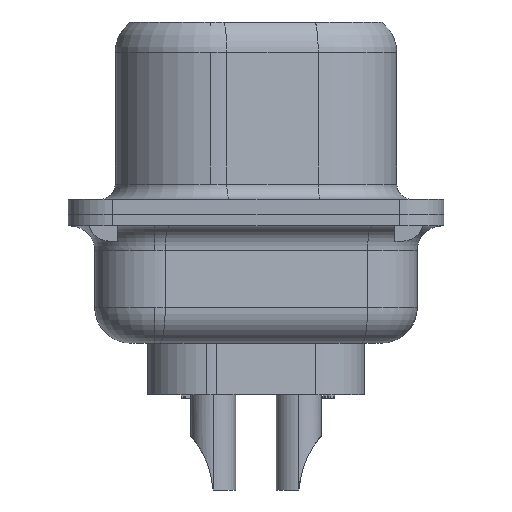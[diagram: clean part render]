
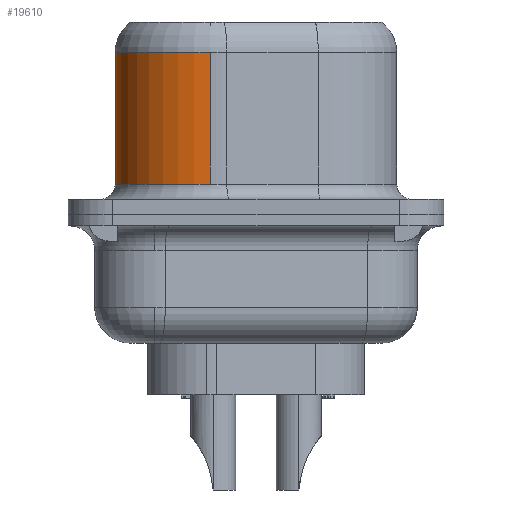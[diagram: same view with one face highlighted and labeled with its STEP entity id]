
A CAD part, left-side view. The second image highlights one B-rep face of the part: STEP entity #19610.
In plain terms, the highlighted cylindrical face has radius 3.175 mm (diameter 6.35 mm), a partial arc.
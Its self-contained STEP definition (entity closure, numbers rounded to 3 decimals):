
#400 = DIRECTION ( 'NONE',  ( 1., 0., 0. ) ) ;
#1671 = ORIENTED_EDGE ( 'NONE', *, *, #19513, .F. ) ;
#2184 = EDGE_CURVE ( 'NONE', #28427, #7963, #9942, .T. ) ;
#3332 = CARTESIAN_POINT ( 'NONE',  ( -5.777, 1.524, 5.461 ) ) ;
#3831 = VECTOR ( 'NONE', #24520, 1000. ) ;
#3884 = CARTESIAN_POINT ( 'NONE',  ( -8.952, 1.524, 6.477 ) ) ;
#4002 = CARTESIAN_POINT ( 'NONE',  ( -5.777, 4.699, 6.477 ) ) ;
#4942 = DIRECTION ( 'NONE',  ( 0., 0., 1. ) ) ;
#6292 = LINE ( 'NONE', #4002, #7077 ) ;
#7077 = VECTOR ( 'NONE', #26764, 1000. ) ;
#7963 = VERTEX_POINT ( 'NONE', #27093 ) ;
#8525 = ORIENTED_EDGE ( 'NONE', *, *, #22905, .T. ) ;
#8738 = ORIENTED_EDGE ( 'NONE', *, *, #29622, .T. ) ;
#9348 = FACE_OUTER_BOUND ( 'NONE', #12786, .T. ) ;
#9942 = CIRCLE ( 'NONE', #29810, 3.175 ) ;
#10731 = LINE ( 'NONE', #3884, #3831 ) ;
#11166 = CYLINDRICAL_SURFACE ( 'NONE', #26607, 3.175 ) ;
#12556 = ORIENTED_EDGE ( 'NONE', *, *, #2184, .F. ) ;
#12786 = EDGE_LOOP ( 'NONE', ( #1671, #12556, #8738, #8525 ) ) ;
#13358 = CARTESIAN_POINT ( 'NONE',  ( -5.777, 4.699, 5.461 ) ) ;
#16051 = CARTESIAN_POINT ( 'NONE',  ( -8.952, 1.524, 1.067 ) ) ;
#16064 = CIRCLE ( 'NONE', #26724, 3.175 ) ;
#18581 = DIRECTION ( 'NONE',  ( -1., 0., 0. ) ) ;
#19513 = EDGE_CURVE ( 'NONE', #7963, #28784, #10731, .T. ) ;
#19610 = ADVANCED_FACE ( 'NONE', ( #9348 ), #11166, .T. ) ;
#20008 = DIRECTION ( 'NONE',  ( 1., 0., 0. ) ) ;
#20242 = CARTESIAN_POINT ( 'NONE',  ( -5.777, 4.699, 1.067 ) ) ;
#20400 = CARTESIAN_POINT ( 'NONE',  ( -5.777, 1.524, 6.477 ) ) ;
#21179 = CARTESIAN_POINT ( 'NONE',  ( -5.777, 1.524, 1.067 ) ) ;
#22905 = EDGE_CURVE ( 'NONE', #29648, #28784, #16064, .T. ) ;
#24520 = DIRECTION ( 'NONE',  ( 0., 0., -1. ) ) ;
#26391 = DIRECTION ( 'NONE',  ( 0., 0., 1. ) ) ;
#26607 = AXIS2_PLACEMENT_3D ( 'NONE', #20400, #29649, #18581 ) ;
#26724 = AXIS2_PLACEMENT_3D ( 'NONE', #21179, #4942, #400 ) ;
#26764 = DIRECTION ( 'NONE',  ( 0., 0., -1. ) ) ;
#27093 = CARTESIAN_POINT ( 'NONE',  ( -8.952, 1.524, 5.461 ) ) ;
#28427 = VERTEX_POINT ( 'NONE', #13358 ) ;
#28784 = VERTEX_POINT ( 'NONE', #16051 ) ;
#29622 = EDGE_CURVE ( 'NONE', #28427, #29648, #6292, .T. ) ;
#29648 = VERTEX_POINT ( 'NONE', #20242 ) ;
#29649 = DIRECTION ( 'NONE',  ( 0., 0., -1. ) ) ;
#29810 = AXIS2_PLACEMENT_3D ( 'NONE', #3332, #26391, #20008 ) ;
